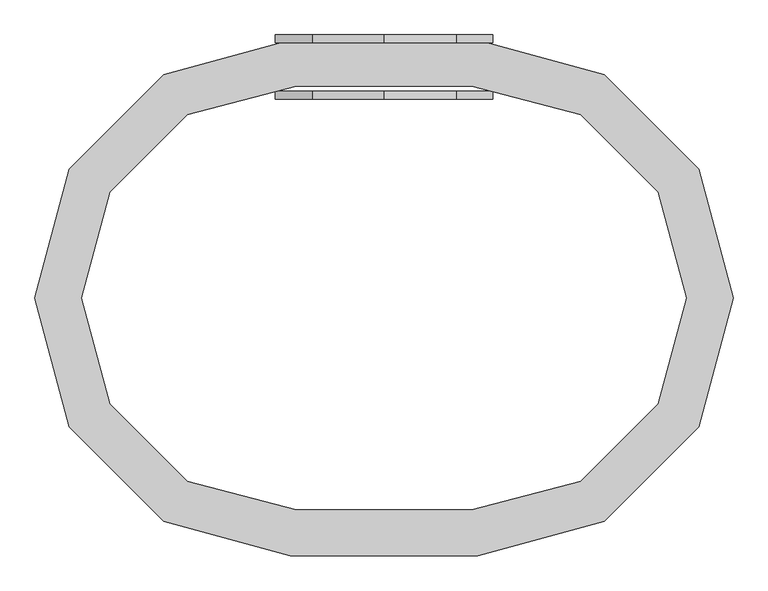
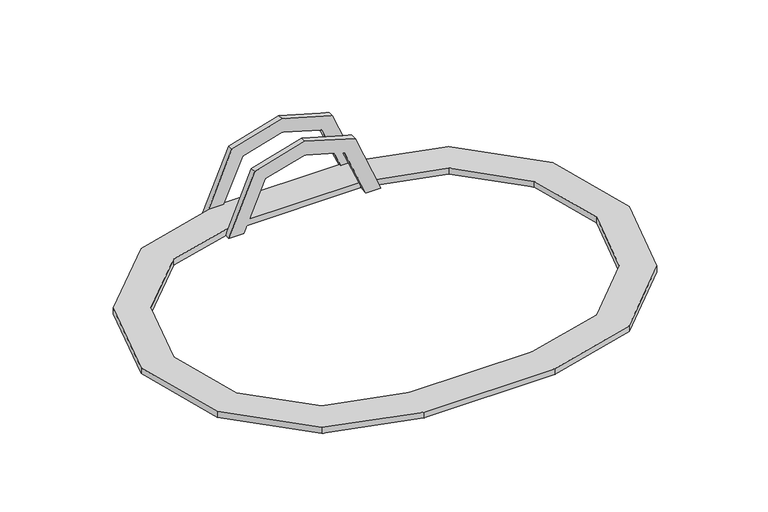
"""IFC4 building model written with IfcOpenShell, lengths in millimetres: geographic element geometry, Enscape AssetDefinition - Toy 024 Train Set : Enscape AssetDefinition - Toy 024 Train Set."""

from ifc_helpers import new_model, si_unit, origin, place, context, project, spatial, triangles, source, transform, mapped, element, save


def geographic_element_690a8a80(model_context):
    return source(origin(), model_context, "Body", "Tessellation", [
        triangles([(512.9587695, 221.5883277, 14.2729546), (569.3252781, 11.2259874, 14.2729546), (569.3252781, 11.2259874, 0.0), (358.9622827, 375.5848872, 14.2729546), (447.4193107, 183.7490676, 14.2729546), (512.9587695, 221.5883277, 0.0), (358.9622827, 375.5848872, 0.0), (447.4193107, 183.7490676, 0.0), (143.3078951, 356.6194387, 14.2729546), (321.1229862, 310.0453557, 14.2729546), (321.1229862, 310.0453557, 0.0), (493.6467579, 11.2259874, 0.0), (447.4186203, -161.2977672, 0.0), (447.4186203, -161.2977672, 14.2729546), (493.6467579, 11.2259874, 14.2729546), (512.9581155, -199.1370273, 0.0), (358.9622827, -353.1335687, 14.2729546), (512.9581155, -199.1370273, 14.2729546), (321.1229862, -287.5940735, 0.0), (143.3078951, -334.1681202, 0.0), (321.1229862, -287.5940735, 14.2729546), (153.1857624, -409.1992599, 14.2729546), (153.1857624, -409.1992599, 0.0), (358.9622827, -353.1335687, 0.0), (-142.4950541, -334.1681202, 0.0), (143.3078951, -334.1681202, 14.2729546), (-152.3729123, -409.1992599, 14.2729546), (-142.4950541, -334.1681202, 14.2729546), (-152.3729123, -409.1992599, 0.0), (-320.3101361, -287.5940735, 0.0), (-320.3101361, -287.5940735, 14.2729546), (-358.1493962, -353.1329146, 0.0), (-358.1493962, -353.1329146, 14.2729546), (-512.1452654, -199.1370273, 0.0), (-492.8332174, 11.2259874, 0.0), (-446.6057702, -161.2977672, 0.0), (-446.6057702, -161.2977672, 14.2729546), (-512.1452654, -199.1370273, 14.2729546), (-492.8332174, 11.2259874, 14.2729546), (-512.1452654, 221.5883277, 14.2729546), (-568.511774, 11.2259874, 14.2729546), (-568.511774, 11.2259874, 0.0), (-512.1452654, 221.5883277, 0.0), (-446.6057702, 183.7490676, 0.0), (-446.6057702, 183.7490676, 14.2729546), (-320.3101361, 310.0453557, 0.0), (-320.3101361, 310.0453557, 14.2729546), (-358.1493962, 375.5848872, 14.2729546), (-358.1493962, 375.5848872, 0.0), (-142.4950541, 356.6194387, 0.0), (-152.3729123, 431.6505421, 0.0), (-142.4950541, 356.6194387, 14.2729546), (143.3078951, 356.6194387, 0.0), (153.1857624, 431.6505421, 14.2729546), (-152.3729123, 431.6505421, 14.2729546), (153.1857624, 431.6505421, 0.0), (-116.8101575, 440.4277679, 143.5526476), (-176.9318602, 440.4277679, 0.0), (-91.5115291, 440.4277679, 117.2189715), (-142.1504894, 440.4277679, 0.0), (-116.8101575, 427.5049739, 143.5526476), (-176.9318602, 427.5049739, 0.0), (-142.1504894, 427.5049739, 0.0), (0.5079416, 440.4277679, 143.7994258), (0.5079416, 440.4277679, 177.4404774), (0.5079416, 427.5049739, 177.4404774), (-91.5115291, 427.5049739, 117.2189715), (0.5079416, 427.5049739, 143.7994258), (92.5274009, 427.5049739, 117.2189715), (143.1663794, 440.4277679, 0.0), (92.5274009, 440.4277679, 117.2189715), (117.8260475, 440.4277679, 143.5526476), (117.8260475, 427.5049739, 143.5526476), (177.9484224, 427.5049739, 0.0), (177.9484224, 440.4277679, 0.0), (143.1663794, 427.5049739, 0.0), (-176.9318602, 348.5955826, 0.0), (-176.9318602, 335.6728249, 0.0), (-116.8101575, 348.5955826, 143.5526476), (-91.5115291, 348.5955826, 117.2189715), (0.5079416, 348.5955826, 143.7994258), (0.5079416, 348.5955826, 177.4404774), (-116.8101575, 335.6728249, 143.5526476), (-142.1504894, 335.6728249, 0.0), (-142.1504894, 348.5955826, 0.0), (0.5079416, 335.6728249, 177.4404774), (117.8260475, 348.5955826, 143.5526476), (117.8260475, 335.6728249, 143.5526476), (-91.5115291, 335.6728249, 117.2189715), (0.5079416, 335.6728249, 143.7994258), (92.5274009, 348.5955826, 117.2189715), (92.5274009, 335.6728249, 117.2189715), (143.1663794, 335.6728249, 0.0), (177.9484224, 335.6728249, 0.0), (143.1663794, 348.5955826, 0.0), (177.9484224, 348.5955826, 0.0)], [[95, 96, 94], [94, 93, 95], [92, 93, 94], [94, 88, 92], [88, 94, 96], [87, 96, 95], [96, 87, 88], [91, 95, 93], [93, 92, 91], [95, 91, 87], [81, 91, 92], [90, 92, 88], [92, 90, 81], [80, 81, 90], [90, 89, 80], [85, 80, 89], [89, 84, 85], [88, 86, 90], [86, 88, 87], [89, 90, 86], [82, 87, 91], [91, 81, 82], [87, 82, 86], [86, 83, 89], [83, 86, 82], [84, 89, 83], [85, 84, 78], [83, 78, 84], [78, 77, 85], [80, 85, 77], [79, 82, 81], [81, 80, 79], [82, 79, 83], [77, 79, 80], [78, 83, 79], [79, 77, 78], [70, 75, 74], [74, 76, 70], [69, 76, 74], [74, 73, 69], [73, 74, 75], [72, 75, 70], [75, 72, 73], [71, 70, 76], [76, 69, 71], [70, 71, 72], [64, 71, 69], [68, 69, 73], [69, 68, 64], [59, 64, 68], [68, 67, 59], [60, 59, 67], [67, 63, 60], [73, 66, 68], [66, 73, 72], [67, 68, 66], [65, 72, 71], [71, 64, 65], [72, 65, 66], [66, 61, 67], [61, 66, 65], [63, 67, 61], [60, 63, 62], [61, 62, 63], [62, 58, 60], [59, 60, 58], [57, 65, 64], [64, 59, 57], [65, 57, 61], [58, 57, 59], [62, 61, 57], [57, 58, 62], [56, 7, 11], [7, 56, 54], [11, 53, 56], [9, 53, 11], [51, 56, 53], [55, 54, 56], [56, 51, 55], [54, 55, 52], [52, 9, 54], [53, 9, 52], [53, 50, 51], [52, 50, 53], [49, 51, 50], [51, 49, 48], [48, 55, 51], [55, 48, 47], [47, 52, 55], [50, 52, 47], [50, 46, 49], [47, 46, 50], [43, 49, 46], [49, 43, 40], [40, 48, 49], [48, 40, 45], [45, 47, 48], [46, 47, 45], [46, 44, 43], [45, 44, 46], [42, 43, 44], [43, 42, 41], [41, 40, 43], [40, 41, 39], [39, 45, 40], [44, 45, 39], [44, 35, 42], [39, 35, 44], [34, 42, 35], [42, 34, 38], [38, 41, 42], [41, 38, 37], [37, 39, 41], [35, 39, 37], [35, 36, 34], [37, 36, 35], [32, 34, 36], [34, 32, 33], [33, 38, 34], [38, 33, 31], [31, 37, 38], [36, 37, 31], [36, 30, 32], [31, 30, 36], [29, 32, 30], [32, 29, 27], [27, 33, 32], [33, 27, 28], [28, 31, 33], [30, 31, 28], [30, 25, 29], [28, 25, 30], [23, 29, 25], [29, 23, 22], [22, 27, 29], [27, 22, 26], [26, 28, 27], [25, 28, 26], [25, 20, 23], [26, 20, 25], [24, 23, 20], [23, 24, 17], [17, 22, 23], [22, 17, 21], [21, 26, 22], [20, 26, 21], [20, 19, 24], [21, 19, 20], [16, 24, 19], [24, 16, 18], [18, 17, 24], [17, 18, 14], [14, 21, 17], [19, 21, 14], [19, 13, 16], [14, 13, 19], [3, 16, 13], [16, 3, 2], [2, 18, 16], [18, 2, 15], [15, 14, 18], [13, 14, 15], [13, 12, 3], [15, 12, 13], [5, 15, 2], [12, 15, 5], [8, 11, 7], [5, 8, 12], [11, 10, 9], [10, 11, 8], [8, 5, 10], [4, 54, 9], [9, 10, 4], [54, 4, 7], [7, 6, 8], [6, 3, 12], [12, 8, 6], [6, 7, 4], [1, 4, 10], [10, 5, 1], [2, 1, 5], [4, 1, 6], [3, 6, 1], [1, 2, 3]]),
    ])


if __name__ == "__main__":
    model = new_model("IFC4")
    model_context = context("Model", 3, world=origin())
    ifc_project = project(units=[si_unit("LENGTHUNIT", "METRE", prefix="MILLI")], contexts=[model_context])
    site = spatial("IfcSite", under=ifc_project)
    building = spatial("IfcBuilding", under=site)
    placement = place(None, origin())
    geographic_element_shape = geographic_element_690a8a80(model_context)
    element("IfcGeographicElement", 1, ObjectType="Enscape AssetDefinition - Toy 024 Train Set : Enscape AssetDefinition - Toy 024 Train Set", at=placement, inside=building, context=model_context, shape_type="MappedRepresentation", body=[
        mapped(geographic_element_shape, transform((0.0, 0.0, 0.0), x_axis=(1.0, 0.0, 0.0), y_axis=(0.0, 1.0, 0.0), z_axis=(0.0, 0.0, 1.0))),
    ])
    save(model, "model.ifc")
